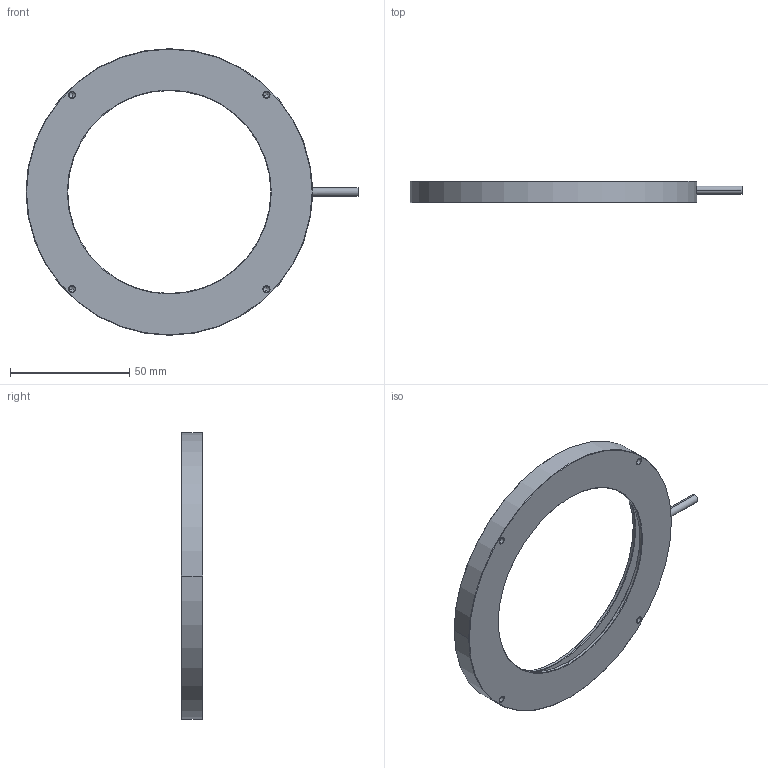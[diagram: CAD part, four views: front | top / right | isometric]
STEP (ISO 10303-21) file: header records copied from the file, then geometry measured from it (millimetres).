
FILE_DESCRIPTION((''),'2;1');
FILE_NAME('P-RL-120-00-S','2021-11-22T',('RSDNRD0010'),(''),'PRO/ENGINEER BY PARAMETRIC TECHNOLOGY CORPORATION, 2010100','PRO/ENGINEER BY PARAMETRIC TECHNOLOGY CORPORATION, 2010100','');
FILE_SCHEMA(('CONFIG_CONTROL_DESIGN'));
Length unit declared in the file: millimetre
Products named in the file (1): P-RL-120-00-S
Bounding box: 139 x 9 x 120 mm (x, y, z)
Volume: 33317.9 mm3; surface area: 22104.9 mm2
Topology: 1 solids, 5 shells, 61 faces, 141 edges, 86 vertices
Faces by surface type: cylinder 30, cone 20, plane 11
Entity records: 1758 total; most frequent: DIRECTION 331, CARTESIAN_POINT 307, ORIENTED_EDGE 250, AXIS2_PLACEMENT_3D 140, EDGE_CURVE 133, VERTEX_POINT 86, CIRCLE 78, EDGE_LOOP 75
